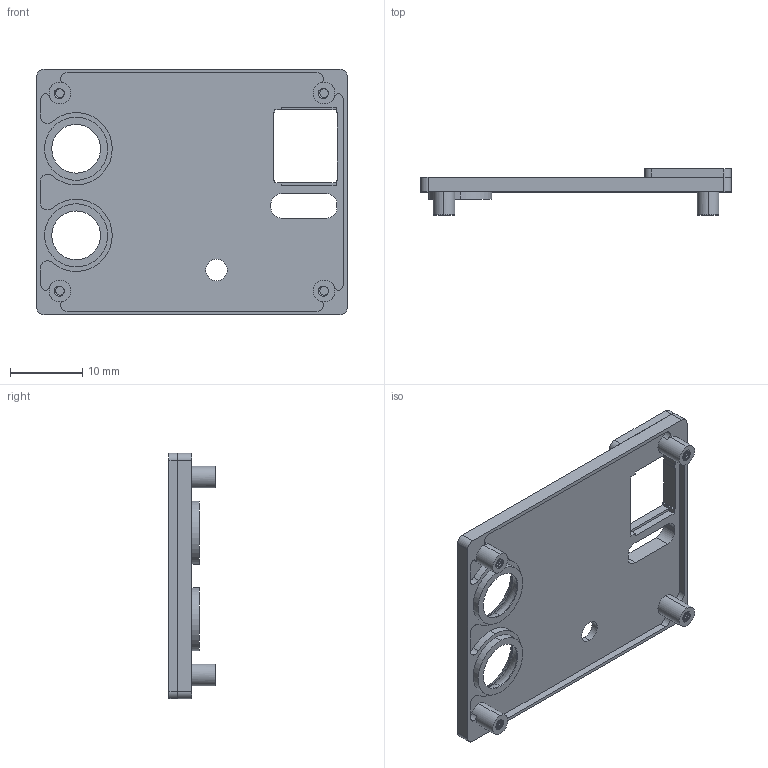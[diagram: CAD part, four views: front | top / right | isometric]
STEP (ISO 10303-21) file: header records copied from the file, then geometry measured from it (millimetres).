
FILE_DESCRIPTION (( 'STEP AP214' ), '1' );
FILE_NAME ('HereX top casing.STEP', '2026-03-06T02:59:19', ( '' ), ( '' ), 'SwSTEP 2.0', 'SolidWorks 2025', '' );
FILE_SCHEMA (( 'AUTOMOTIVE_DESIGN' ));
Length unit declared in the file: millimetre
Products named in the file (1): HereX top casing
Bounding box: 43 x 6.4 x 34 mm (x, y, z)
Volume: 1832.1 mm3; surface area: 3698.2 mm2
Topology: 1 solids, 1 shells, 330 faces, 933 edges, 615 vertices
Faces by surface type: cylinder 157, plane 108, bspline 53, torus 12
Entity records: 17814 total; most frequent: CARTESIAN_POINT 10052, ORIENTED_EDGE 1866, DIRECTION 1341, EDGE_CURVE 933, VERTEX_POINT 615, LINE 457, VECTOR 457, AXIS2_PLACEMENT_3D 442
